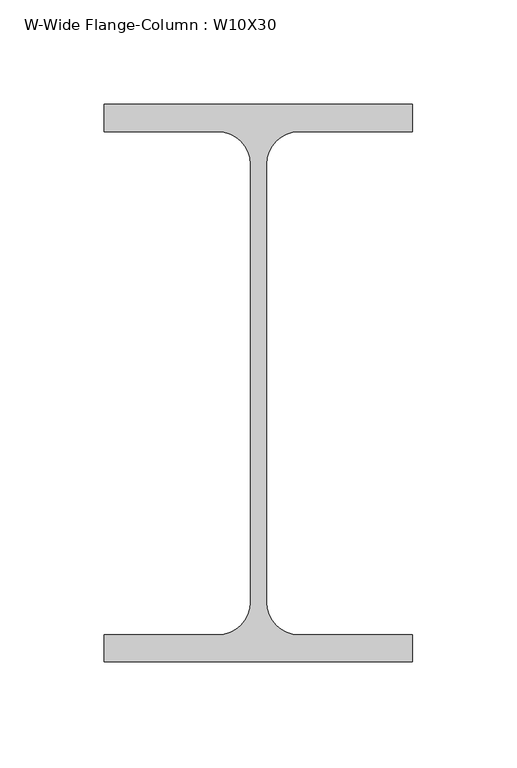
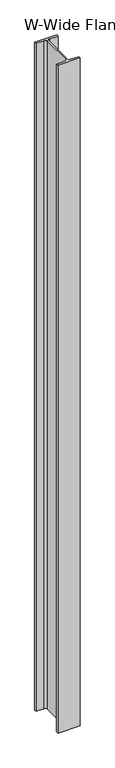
"""IFC4 building model written with IfcOpenShell, lengths in millimetres: column geometry, W-Wide Flange-Column : W10X30."""

from ifc_helpers import new_model, si_unit, point, frame, frame_2d, origin, place, context, project, spatial, polyline, circle_curve, trimmed, segment, composite_curve, outline, extrude, source, transform, mapped, element, save


def w_wide_flange_column_w10x30_8af20c5e(model_context):
    return source(origin(), model_context, "Body", "SweptSolid", [
        extrude(outline(composite_curve([segment(polyline([(73.787, 133.35), (73.787, 120.396), (19.431, 120.396)]), True, "CONTINUOUS"), segment(trimmed(circle_curve(frame_2d((19.431, 104.775)), 15.621), [point((19.431, 120.396))], [point((3.81, 104.775))], True, "CARTESIAN"), True, "CONTINUOUS"), segment(polyline([(3.81, 104.775), (3.81, -104.775)]), True, "CONTINUOUS"), segment(trimmed(circle_curve(frame_2d((19.431, -104.775)), 15.621), [point((3.81, -104.775))], [point((19.431, -120.396))], True, "CARTESIAN"), True, "CONTINUOUS"), segment(polyline([(19.431, -120.396), (73.787, -120.396), (73.787, -133.35), (-73.787, -133.35), (-73.787, -120.396), (-19.431, -120.396)]), True, "CONTINUOUS"), segment(trimmed(circle_curve(frame_2d((-19.431, -104.775)), 15.621), [point((-19.431, -120.396))], [point((-3.81, -104.775))], True, "CARTESIAN"), True, "CONTINUOUS"), segment(polyline([(-3.81, -104.775), (-3.81, 104.775)]), True, "CONTINUOUS"), segment(trimmed(circle_curve(frame_2d((-19.431, 104.775)), 15.621), [point((-3.81, 104.775))], [point((-19.431, 120.396))], True, "CARTESIAN"), True, "CONTINUOUS"), segment(polyline([(-19.431, 120.396), (-73.787, 120.396), (-73.787, 133.35), (73.787, 133.35)]), True, "CONTINUOUS")], self_intersect=False)), frame((0.0, 0.0, -254.0), z_axis=(0.0, 0.0, 1.0), x_axis=(1.0, 0.0, 0.0)), (0.0, 0.0, 1.0), 4699.0),
    ])


if __name__ == "__main__":
    model = new_model("IFC4")
    model_context = context("Model", 3, world=origin())
    ifc_project = project(units=[si_unit("LENGTHUNIT", "METRE", prefix="MILLI")], contexts=[model_context])
    site = spatial("IfcSite", under=ifc_project)
    building = spatial("IfcBuilding", under=site)
    placement = place(None, origin())
    w_wide_flange_column_w10x30_shape = w_wide_flange_column_w10x30_8af20c5e(model_context)
    element("IfcColumn", 1, ObjectType="W-Wide Flange-Column : W10X30", at=placement, inside=building, context=model_context, shape_type="MappedRepresentation", body=[
        mapped(w_wide_flange_column_w10x30_shape, transform((0.0, 0.0, 0.0), x_axis=(1.0, 0.0, 0.0), y_axis=(0.0, 1.0, 0.0), z_axis=(0.0, 0.0, 1.0))),
    ])
    save(model, "model.ifc")
